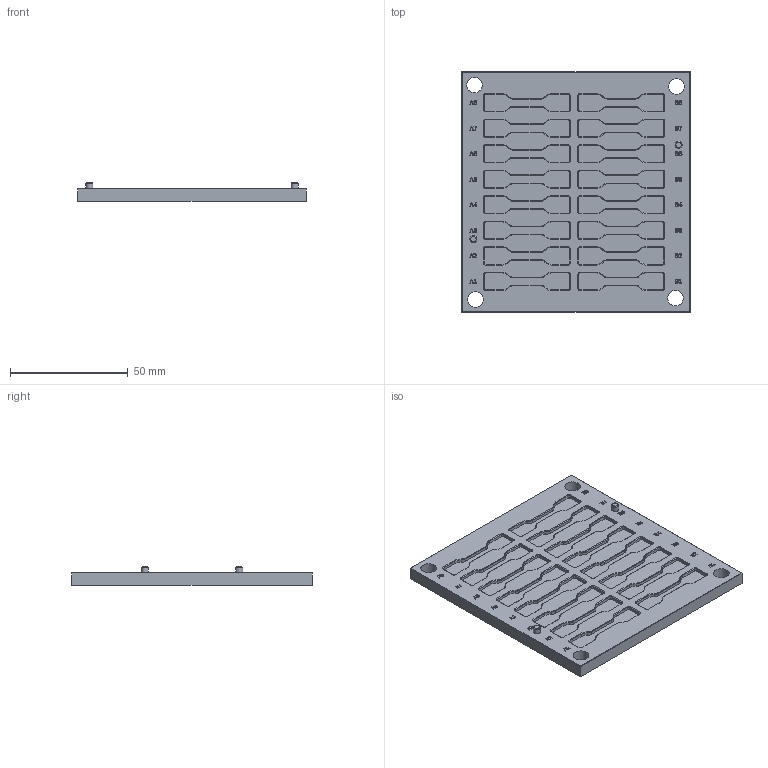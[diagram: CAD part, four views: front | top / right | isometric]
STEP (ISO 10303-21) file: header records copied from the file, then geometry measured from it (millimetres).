
FILE_DESCRIPTION(('Open CASCADE Model'),'2;1');
FILE_NAME('Open CASCADE Shape Model','2026-10-31T05:48:19',('Author'),( 'Open CASCADE'),'Open CASCADE STEP processor 7.8','Open CASCADE 7.8' ,'Unknown');
FILE_SCHEMA(('AUTOMOTIVE_DESIGN { 1 0 10303 214 1 1 1 1 }'));
Products named in the file (1): Open CASCADE STEP translator 7.8 2
Bounding box: 97 x 102 x 8 mm (x, y, z)
Volume: 48934.1 mm3; surface area: 24130.9 mm2
Topology: 1 solids, 1 shells, 1478 faces, 3792 edges, 2398 vertices
Faces by surface type: plane 606, extrusion 352, cylinder 262, cone 258
Full cylindrical faces by diameter (mm): 3 x2, 6.6 x4
Entity records: 98534 total; most frequent: CARTESIAN_POINT 27975, DIRECTION 11078, ORIENTED_EDGE 7584, PCURVE 7584, DEFINITIONAL_REPRESENTATION 7584, VECTOR 6992, LINE 6640, EDGE_CURVE 3792
